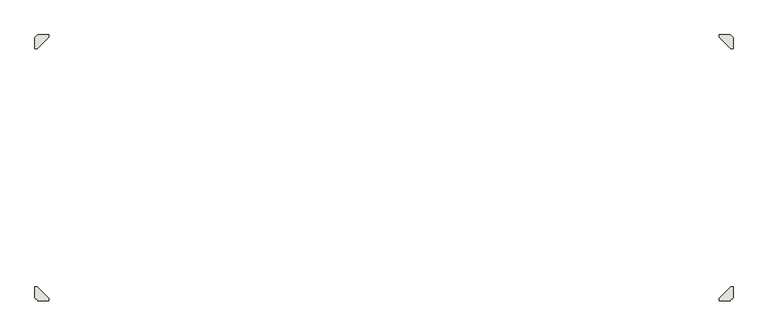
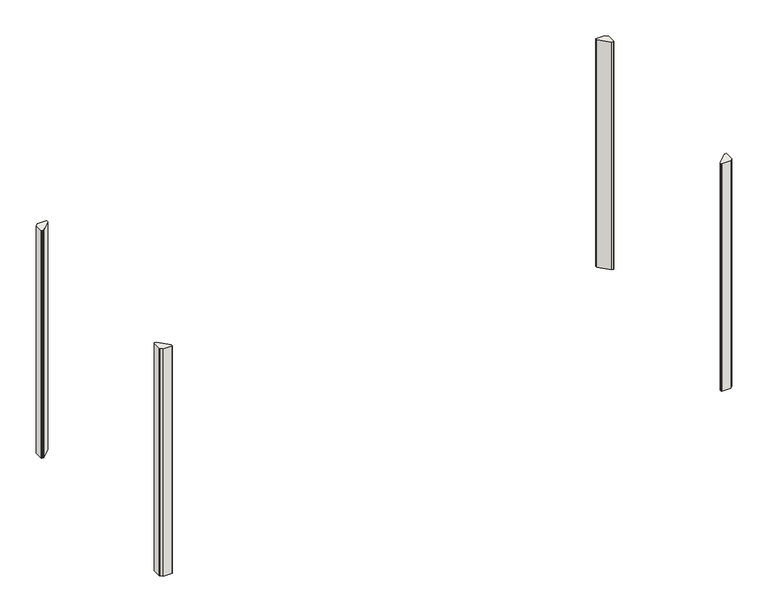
"""IFC4 building model written with IfcOpenShell, lengths in millimetres: wall geometry, Constuction_Wall_Zeppelin-Rental-GmbH_Corner3 : Constuction_Wall_Zeppelin-Rental-GmbH_Corner."""

from ifc_helpers import new_model, si_unit, point, frame_2d, origin, origin_with_axes, place, context, project, spatial, polyline, circle_curve, trimmed, segment, composite_curve, outline, extrude, source, transform, mapped, element, save


def wall_475fbb6f(model_context):
    return source(origin(), model_context, "Body", "SweptSolid", [
        extrude(outline(composite_curve([segment(trimmed(circle_curve(frame_2d((-41914.1769615, 53412.6477407)), 2.0), [point((-41915.591175, 53414.0619542))], [point((-41914.1769615, 53414.6477407))], False, "CARTESIAN"), True, "CONTINUOUS"), segment(polyline([(-41914.1769615, 53414.6477407), (-41897.0484018, 53414.6477407)]), True, "CONTINUOUS"), segment(trimmed(circle_curve(frame_2d((-41897.0484018, 53412.6047274)), 2.0430133), [point((-41897.0484018, 53414.6477407))], [point((-41895.0053886, 53412.6047274))], False, "CARTESIAN"), True, "CONTINUOUS"), segment(polyline([(-41895.0053886, 53412.6047274), (-41895.0053886, 53322.4761678)]), True, "CONTINUOUS"), segment(trimmed(circle_curve(frame_2d((-41897.0053886, 53322.4761678)), 2.0), [point((-41895.0053886, 53322.4761678))], [point((-41895.591175, 53321.0619542))], False, "CARTESIAN"), True, "CONTINUOUS"), segment(polyline([(-41895.591175, 53321.0619542), (-41919.1637896, 53297.4893397)]), True, "CONTINUOUS"), segment(trimmed(circle_curve(frame_2d((-41920.5889876, 53298.9145377)), 2.0155343), [point((-41919.1637896, 53297.4893397))], [point((-41920.5889876, 53296.8990033))], False, "CARTESIAN"), True, "CONTINUOUS"), segment(polyline([(-41920.5889876, 53296.8990033), (-42010.6973489, 53296.8990033)]), True, "CONTINUOUS"), segment(trimmed(circle_curve(frame_2d((-42010.6973489, 53298.9557804)), 2.0567771), [point((-42010.6973489, 53296.8990033))], [point((-42012.7541259, 53298.9557804))], False, "CARTESIAN"), True, "CONTINUOUS"), segment(polyline([(-42012.7541259, 53298.9557804), (-42012.7541259, 53316.0737492)]), True, "CONTINUOUS"), segment(trimmed(circle_curve(frame_2d((-42010.7617861, 53316.0737492)), 1.9923398), [point((-42012.7541259, 53316.0737492))], [point((-42012.1705831, 53317.4825461))], False, "CARTESIAN"), True, "CONTINUOUS"), segment(polyline([(-42012.1705831, 53317.4825461), (-41915.591175, 53414.0619542)]), True, "CONTINUOUS")], self_intersect=False)), origin_with_axes(), (0.0, 0.0, 1.0), 2459.0),
        extrude(outline(composite_curve([segment(polyline([(-47724.4196021, 53414.0619542), (-47627.8401941, 53317.4825461)]), True, "CONTINUOUS"), segment(trimmed(circle_curve(frame_2d((-47629.2489911, 53316.0737492)), 1.9923398), [point((-47627.8401941, 53317.4825461))], [point((-47627.2566512, 53316.0737492))], False, "CARTESIAN"), True, "CONTINUOUS"), segment(polyline([(-47627.2566512, 53316.0737492), (-47627.2566512, 53298.9557804)]), True, "CONTINUOUS"), segment(trimmed(circle_curve(frame_2d((-47629.3134283, 53298.9557804)), 2.0567771), [point((-47627.2566512, 53298.9557804))], [point((-47629.3134283, 53296.8990033))], False, "CARTESIAN"), True, "CONTINUOUS"), segment(polyline([(-47629.3134283, 53296.8990033), (-47719.4217896, 53296.8990033)]), True, "CONTINUOUS"), segment(trimmed(circle_curve(frame_2d((-47719.4217896, 53298.9145377)), 2.0155343), [point((-47719.4217896, 53296.8990033))], [point((-47720.8469876, 53297.4893397))], False, "CARTESIAN"), True, "CONTINUOUS"), segment(polyline([(-47720.8469876, 53297.4893397), (-47744.4196021, 53321.0619542)]), True, "CONTINUOUS"), segment(trimmed(circle_curve(frame_2d((-47743.0053886, 53322.4761678)), 2.0), [point((-47744.4196021, 53321.0619542))], [point((-47745.0053886, 53322.4761678))], False, "CARTESIAN"), True, "CONTINUOUS"), segment(polyline([(-47745.0053886, 53322.4761678), (-47745.0053886, 53412.6047274)]), True, "CONTINUOUS"), segment(trimmed(circle_curve(frame_2d((-47742.9623753, 53412.6047274)), 2.0430133), [point((-47745.0053886, 53412.6047274))], [point((-47742.9623753, 53414.6477407))], False, "CARTESIAN"), True, "CONTINUOUS"), segment(polyline([(-47742.9623753, 53414.6477407), (-47725.8338157, 53414.6477407)]), True, "CONTINUOUS"), segment(trimmed(circle_curve(frame_2d((-47725.8338157, 53412.6477407)), 2.0), [point((-47725.8338157, 53414.6477407))], [point((-47724.4196021, 53414.0619542))], False, "CARTESIAN"), True, "CONTINUOUS")], self_intersect=False)), origin_with_axes(), (0.0, 0.0, 1.0), 2459.0),
        extrude(outline(composite_curve([segment(polyline([(-41915.591175, 55409.736177), (-42012.1705831, 55506.3155851)]), True, "CONTINUOUS"), segment(trimmed(circle_curve(frame_2d((-42010.7617861, 55507.7243821)), 1.9923398), [point((-42012.1705831, 55506.3155851))], [point((-42012.7541259, 55507.7243821))], False, "CARTESIAN"), True, "CONTINUOUS"), segment(polyline([(-42012.7541259, 55507.7243821), (-42012.7541259, 55524.8423508)]), True, "CONTINUOUS"), segment(trimmed(circle_curve(frame_2d((-42010.6973489, 55524.8423508)), 2.0567771), [point((-42012.7541259, 55524.8423508))], [point((-42010.6973489, 55526.8991279))], False, "CARTESIAN"), True, "CONTINUOUS"), segment(polyline([(-42010.6973489, 55526.8991279), (-41920.5889876, 55526.8991279)]), True, "CONTINUOUS"), segment(trimmed(circle_curve(frame_2d((-41920.5889876, 55524.8835936)), 2.0155343), [point((-41920.5889876, 55526.8991279))], [point((-41919.1637896, 55526.3087916))], False, "CARTESIAN"), True, "CONTINUOUS"), segment(polyline([(-41919.1637896, 55526.3087916), (-41895.591175, 55502.736177)]), True, "CONTINUOUS"), segment(trimmed(circle_curve(frame_2d((-41897.0053886, 55501.3219634)), 2.0), [point((-41895.591175, 55502.736177))], [point((-41895.0053886, 55501.3219634))], False, "CARTESIAN"), True, "CONTINUOUS"), segment(polyline([(-41895.0053886, 55501.3219634), (-41895.0053886, 55411.1934038)]), True, "CONTINUOUS"), segment(trimmed(circle_curve(frame_2d((-41897.0484018, 55411.1934038)), 2.0430133), [point((-41895.0053886, 55411.1934038))], [point((-41897.0484018, 55409.1503905))], False, "CARTESIAN"), True, "CONTINUOUS"), segment(polyline([(-41897.0484018, 55409.1503905), (-41914.1769615, 55409.1503905)]), True, "CONTINUOUS"), segment(trimmed(circle_curve(frame_2d((-41914.1769615, 55411.1503905)), 2.0), [point((-41914.1769615, 55409.1503905))], [point((-41915.591175, 55409.736177))], False, "CARTESIAN"), True, "CONTINUOUS")], self_intersect=False)), origin_with_axes(), (0.0, 0.0, 1.0), 2459.0),
        extrude(outline(composite_curve([segment(trimmed(circle_curve(frame_2d((-47725.8338157, 55411.1503905)), 2.0), [point((-47724.4196021, 55409.736177))], [point((-47725.8338157, 55409.1503905))], False, "CARTESIAN"), True, "CONTINUOUS"), segment(polyline([(-47725.8338157, 55409.1503905), (-47742.9623753, 55409.1503905)]), True, "CONTINUOUS"), segment(trimmed(circle_curve(frame_2d((-47742.9623753, 55411.1934038)), 2.0430133), [point((-47742.9623753, 55409.1503905))], [point((-47745.0053886, 55411.1934038))], False, "CARTESIAN"), True, "CONTINUOUS"), segment(polyline([(-47745.0053886, 55411.1934038), (-47745.0053886, 55501.3219634)]), True, "CONTINUOUS"), segment(trimmed(circle_curve(frame_2d((-47743.0053886, 55501.3219634)), 2.0), [point((-47745.0053886, 55501.3219634))], [point((-47744.4196021, 55502.736177))], False, "CARTESIAN"), True, "CONTINUOUS"), segment(polyline([(-47744.4196021, 55502.736177), (-47720.8469876, 55526.3087916)]), True, "CONTINUOUS"), segment(trimmed(circle_curve(frame_2d((-47719.4217896, 55524.8835936)), 2.0155343), [point((-47720.8469876, 55526.3087916))], [point((-47719.4217896, 55526.8991279))], False, "CARTESIAN"), True, "CONTINUOUS"), segment(polyline([(-47719.4217896, 55526.8991279), (-47629.3134283, 55526.8991279)]), True, "CONTINUOUS"), segment(trimmed(circle_curve(frame_2d((-47629.3134283, 55524.8423508)), 2.0567771), [point((-47629.3134283, 55526.8991279))], [point((-47627.2566512, 55524.8423508))], False, "CARTESIAN"), True, "CONTINUOUS"), segment(polyline([(-47627.2566512, 55524.8423508), (-47627.2566512, 55507.7243821)]), True, "CONTINUOUS"), segment(trimmed(circle_curve(frame_2d((-47629.2489911, 55507.7243821)), 1.9923398), [point((-47627.2566512, 55507.7243821))], [point((-47627.8401941, 55506.3155851))], False, "CARTESIAN"), True, "CONTINUOUS"), segment(polyline([(-47627.8401941, 55506.3155851), (-47724.4196021, 55409.736177)]), True, "CONTINUOUS")], self_intersect=False)), origin_with_axes(), (0.0, 0.0, 1.0), 2459.0),
    ])


if __name__ == "__main__":
    model = new_model("IFC4")
    model_context = context("Model", 3, world=origin())
    ifc_project = project(units=[si_unit("LENGTHUNIT", "METRE", prefix="MILLI")], contexts=[model_context])
    site = spatial("IfcSite", under=ifc_project)
    building = spatial("IfcBuilding", under=site)
    placement = place(None, origin())
    wall_shape = wall_475fbb6f(model_context)
    element("IfcWall", 1, ObjectType="Constuction_Wall_Zeppelin-Rental-GmbH_Corner3 : Constuction_Wall_Zeppelin-Rental-GmbH_Corner", at=placement, inside=building, context=model_context, shape_type="MappedRepresentation", body=[
        mapped(wall_shape, transform((0.0, 0.0, 0.0), x_axis=(1.0, 0.0, 0.0), y_axis=(0.0, 1.0, 0.0), z_axis=(0.0, 0.0, 1.0))),
    ])
    save(model, "model.ifc")
